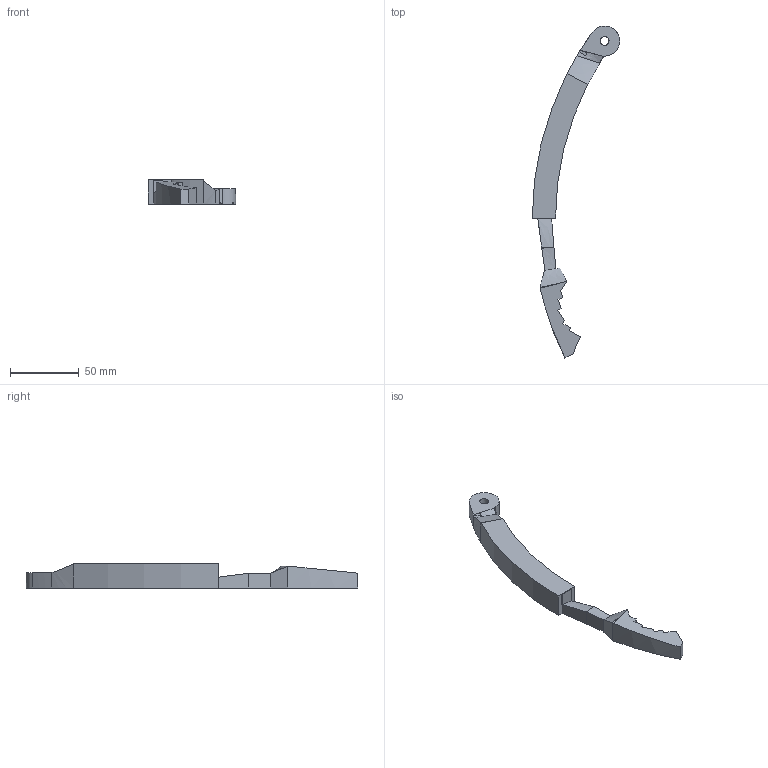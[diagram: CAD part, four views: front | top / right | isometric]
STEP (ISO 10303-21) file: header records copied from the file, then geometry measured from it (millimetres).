
FILE_DESCRIPTION(/* description */ ('Alibre Inc.'),/* implementation_level */ '2;1');
FILE_NAME(/* name */ 'export0',/* time_stamp */ '2016-03-13T20:23:03-04:00',/* author */ (''),/* organization */ (''),/* preprocessor_version */ 'ST-DEVELOPER v14',/* originating_system */ 'Alibre',/* authorisation */ '');
FILE_SCHEMA (('CONFIG_CONTROL_DESIGN'));
Length unit declared in the file: centimetre
Products named in the file (1): ID_1
Bounding box: 63.57 x 241.54 x 17.46 mm (x, y, z)
Volume: 53863.8 mm3; surface area: 16070.8 mm2
Topology: 1 solids, 1 shells, 75 faces, 198 edges, 127 vertices
Faces by surface type: plane 46, bspline 16, cylinder 13
Full cylindrical faces by diameter (mm): 3.175 x3, 6.35 x1
Entity records: 2880 total; most frequent: CARTESIAN_POINT 1171, ORIENTED_EDGE 386, DIRECTION 226, EDGE_CURVE 193, VERTEX_POINT 126, VECTOR 100, LINE 100, AXIS2_PLACEMENT_3D 85
